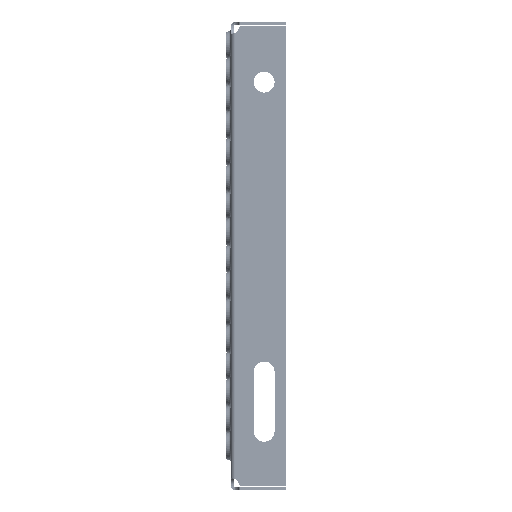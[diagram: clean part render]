
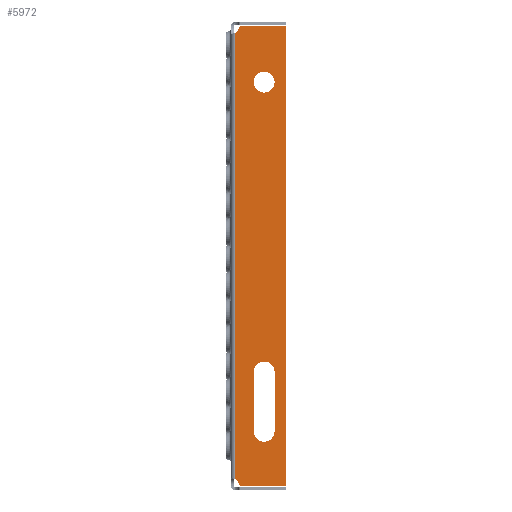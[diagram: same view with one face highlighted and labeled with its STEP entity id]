
A CAD part, left-side view. The second image highlights one B-rep face of the part: STEP entity #5972.
In plain terms, the highlighted planar face has unit normal (-1, 0, 0).
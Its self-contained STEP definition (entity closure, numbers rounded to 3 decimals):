
#830 = ORIENTED_EDGE ( 'NONE', *, *, #44224, .T. ) ;
#1272 = EDGE_CURVE ( 'NONE', #21928, #27172, #2495, .T. ) ;
#1681 = AXIS2_PLACEMENT_3D ( 'NONE', #13061, #43833, #17453 ) ;
#2195 = CARTESIAN_POINT ( 'NONE',  ( -300., -37.5, -138. ) ) ;
#2495 = CIRCLE ( 'NONE', #32581, 1. ) ;
#3585 = LINE ( 'NONE', #20446, #13884 ) ;
#3954 = CARTESIAN_POINT ( 'NONE',  ( -300., -15.5, -61.5 ) ) ;
#4736 = VERTEX_POINT ( 'NONE', #46506 ) ;
#5029 = LINE ( 'NONE', #11092, #16711 ) ;
#5892 = LINE ( 'NONE', #2195, #25148 ) ;
#5972 = ADVANCED_FACE ( 'NONE', ( #24378, #47822, #11344 ), #29059, .F. ) ;
#6015 = CARTESIAN_POINT ( 'NONE',  ( -300., -5.43, -137.167 ) ) ;
#6187 = CIRCLE ( 'NONE', #6693, 5. ) ;
#6483 = CARTESIAN_POINT ( 'NONE',  ( -300., -0.5, -138. ) ) ;
#6693 = AXIS2_PLACEMENT_3D ( 'NONE', #6483, #37244, #10899 ) ;
#6840 = DIRECTION ( 'NONE',  ( 0., 0., 1. ) ) ;
#7158 = CARTESIAN_POINT ( 'NONE',  ( -300., 0.5, -143.916 ) ) ;
#7684 = CIRCLE ( 'NONE', #45773, 1. ) ;
#8051 = DIRECTION ( 'NONE',  ( -1., 0., 0. ) ) ;
#9187 = LINE ( 'NONE', #26368, #53260 ) ;
#10129 = CARTESIAN_POINT ( 'NONE',  ( -300., -0.5, 171. ) ) ;
#10899 = DIRECTION ( 'NONE',  ( 0., 0., -1. ) ) ;
#11092 = CARTESIAN_POINT ( 'NONE',  ( -300., -37.5, 171. ) ) ;
#11344 = FACE_BOUND ( 'NONE', #47818, .T. ) ;
#11418 = VECTOR ( 'NONE', #55959, 1000. ) ;
#11767 = AXIS2_PLACEMENT_3D ( 'NONE', #15125, #45924, #19518 ) ;
#13061 = CARTESIAN_POINT ( 'NONE',  ( -300., -22.5, 133.5 ) ) ;
#13620 = ORIENTED_EDGE ( 'NONE', *, *, #40194, .F. ) ;
#13884 = VECTOR ( 'NONE', #51312, 1000. ) ;
#14542 = DIRECTION ( 'NONE',  ( 0., 0., -1. ) ) ;
#14632 = DIRECTION ( 'NONE',  ( -1., 0., 0. ) ) ;
#15125 = CARTESIAN_POINT ( 'NONE',  ( -300., -22.5, -101.5 ) ) ;
#16452 = LINE ( 'NONE', #25394, #50219 ) ;
#16711 = VECTOR ( 'NONE', #50734, 1000. ) ;
#16749 = VERTEX_POINT ( 'NONE', #18525 ) ;
#17453 = DIRECTION ( 'NONE',  ( 0., 0., -1. ) ) ;
#18209 = ORIENTED_EDGE ( 'NONE', *, *, #28135, .T. ) ;
#18326 = VERTEX_POINT ( 'NONE', #20701 ) ;
#18523 = CARTESIAN_POINT ( 'NONE',  ( -300., -6.416, -137. ) ) ;
#18525 = CARTESIAN_POINT ( 'NONE',  ( -300., -5.43, 170.167 ) ) ;
#18974 = CARTESIAN_POINT ( 'NONE',  ( -300., -37.5, -138. ) ) ;
#19216 = EDGE_CURVE ( 'NONE', #33750, #39835, #5029, .T. ) ;
#19518 = DIRECTION ( 'NONE',  ( 0., 0., -1. ) ) ;
#20381 = DIRECTION ( 'NONE',  ( 1., 0., 0. ) ) ;
#20446 = CARTESIAN_POINT ( 'NONE',  ( -300., -6.416, -138. ) ) ;
#20701 = CARTESIAN_POINT ( 'NONE',  ( -300., -29.5, -101.5 ) ) ;
#21235 = CARTESIAN_POINT ( 'NONE',  ( -300., -37.5, 171. ) ) ;
#21928 = VERTEX_POINT ( 'NONE', #6015 ) ;
#22100 = DIRECTION ( 'NONE',  ( 0., 0., -1. ) ) ;
#22803 = CARTESIAN_POINT ( 'NONE',  ( -300., -6.416, -138. ) ) ;
#22921 = DIRECTION ( 'NONE',  ( 0., 0., -1. ) ) ;
#23213 = CARTESIAN_POINT ( 'NONE',  ( -300., -22.5, 126.5 ) ) ;
#24378 = FACE_OUTER_BOUND ( 'NONE', #39812, .T. ) ;
#24589 = CARTESIAN_POINT ( 'NONE',  ( -300., -6.416, 171. ) ) ;
#25125 = CIRCLE ( 'NONE', #11767, 7. ) ;
#25148 = VECTOR ( 'NONE', #6840, 1000. ) ;
#25394 = CARTESIAN_POINT ( 'NONE',  ( -300., -29.5, -61.5 ) ) ;
#25458 = EDGE_CURVE ( 'NONE', #57153, #18326, #25125, .T. ) ;
#26221 = ORIENTED_EDGE ( 'NONE', *, *, #32628, .F. ) ;
#26368 = CARTESIAN_POINT ( 'NONE',  ( -300., -15.5, -61.5 ) ) ;
#26476 = EDGE_CURVE ( 'NONE', #36626, #57153, #9187, .T. ) ;
#27172 = VERTEX_POINT ( 'NONE', #22803 ) ;
#28135 = EDGE_CURVE ( 'NONE', #27172, #50357, #3585, .T. ) ;
#28603 = ORIENTED_EDGE ( 'NONE', *, *, #44309, .T. ) ;
#29059 = PLANE ( 'NONE',  #48675 ) ;
#29558 = CARTESIAN_POINT ( 'NONE',  ( -300., -3., -143.916 ) ) ;
#31239 = ORIENTED_EDGE ( 'NONE', *, *, #1272, .T. ) ;
#31266 = EDGE_CURVE ( 'NONE', #31840, #31840, #34206, .T. ) ;
#31840 = VERTEX_POINT ( 'NONE', #23213 ) ;
#32109 = EDGE_CURVE ( 'NONE', #50357, #33750, #5892, .T. ) ;
#32581 = AXIS2_PLACEMENT_3D ( 'NONE', #18523, #49353, #22921 ) ;
#32628 = EDGE_CURVE ( 'NONE', #42122, #36626, #53336, .T. ) ;
#33069 = ORIENTED_EDGE ( 'NONE', *, *, #25458, .F. ) ;
#33259 = ORIENTED_EDGE ( 'NONE', *, *, #26476, .F. ) ;
#33410 = ORIENTED_EDGE ( 'NONE', *, *, #48721, .F. ) ;
#33716 = CIRCLE ( 'NONE', #34319, 5. ) ;
#33750 = VERTEX_POINT ( 'NONE', #21235 ) ;
#34206 = CIRCLE ( 'NONE', #1681, 7. ) ;
#34319 = AXIS2_PLACEMENT_3D ( 'NONE', #10129, #40904, #14542 ) ;
#34387 = CARTESIAN_POINT ( 'NONE',  ( -300., -6.416, 170. ) ) ;
#35386 = ORIENTED_EDGE ( 'NONE', *, *, #37992, .T. ) ;
#36626 = VERTEX_POINT ( 'NONE', #3954 ) ;
#37244 = DIRECTION ( 'NONE',  ( 1., 0., 0. ) ) ;
#37992 = EDGE_CURVE ( 'NONE', #39835, #16749, #7684, .T. ) ;
#38817 = DIRECTION ( 'NONE',  ( 0., 0., 1. ) ) ;
#39259 = EDGE_LOOP ( 'NONE', ( #41638 ) ) ;
#39812 = EDGE_LOOP ( 'NONE', ( #33410, #28603, #31239, #18209, #49663, #55227, #35386, #830 ) ) ;
#39835 = VERTEX_POINT ( 'NONE', #24589 ) ;
#40194 = EDGE_CURVE ( 'NONE', #18326, #42122, #16452, .T. ) ;
#40904 = DIRECTION ( 'NONE',  ( 1., 0., 0. ) ) ;
#41003 = CARTESIAN_POINT ( 'NONE',  ( -300., -22.5, -61.5 ) ) ;
#41638 = ORIENTED_EDGE ( 'NONE', *, *, #31266, .F. ) ;
#42005 = VERTEX_POINT ( 'NONE', #51243 ) ;
#42122 = VERTEX_POINT ( 'NONE', #47731 ) ;
#43833 = DIRECTION ( 'NONE',  ( -1., 0., 0. ) ) ;
#44224 = EDGE_CURVE ( 'NONE', #16749, #4736, #33716, .T. ) ;
#44309 = EDGE_CURVE ( 'NONE', #42005, #21928, #6187, .T. ) ;
#45426 = DIRECTION ( 'NONE',  ( 0., 0., -1. ) ) ;
#45773 = AXIS2_PLACEMENT_3D ( 'NONE', #34387, #8051, #38817 ) ;
#45924 = DIRECTION ( 'NONE',  ( -1., 0., 0. ) ) ;
#46506 = CARTESIAN_POINT ( 'NONE',  ( -300., -3., 166.67 ) ) ;
#47731 = CARTESIAN_POINT ( 'NONE',  ( -300., -29.5, -61.5 ) ) ;
#47818 = EDGE_LOOP ( 'NONE', ( #33259, #26221, #13620, #33069 ) ) ;
#47822 = FACE_BOUND ( 'NONE', #39259, .T. ) ;
#48448 = CARTESIAN_POINT ( 'NONE',  ( -300., -15.5, -101.5 ) ) ;
#48675 = AXIS2_PLACEMENT_3D ( 'NONE', #7158, #20381, #51239 ) ;
#48721 = EDGE_CURVE ( 'NONE', #42005, #4736, #56864, .T. ) ;
#49353 = DIRECTION ( 'NONE',  ( -1., 0., 0. ) ) ;
#49663 = ORIENTED_EDGE ( 'NONE', *, *, #32109, .T. ) ;
#50219 = VECTOR ( 'NONE', #51803, 1000. ) ;
#50357 = VERTEX_POINT ( 'NONE', #18974 ) ;
#50734 = DIRECTION ( 'NONE',  ( 0., 1., 0. ) ) ;
#51239 = DIRECTION ( 'NONE',  ( 0., 0., -1. ) ) ;
#51243 = CARTESIAN_POINT ( 'NONE',  ( -300., -3., -133.67 ) ) ;
#51312 = DIRECTION ( 'NONE',  ( 0., -1., 0. ) ) ;
#51803 = DIRECTION ( 'NONE',  ( 0., 0., 1. ) ) ;
#53260 = VECTOR ( 'NONE', #22100, 1000. ) ;
#53336 = CIRCLE ( 'NONE', #57099, 7. ) ;
#55227 = ORIENTED_EDGE ( 'NONE', *, *, #19216, .T. ) ;
#55959 = DIRECTION ( 'NONE',  ( 0., 0., 1. ) ) ;
#56864 = LINE ( 'NONE', #29558, #11418 ) ;
#57099 = AXIS2_PLACEMENT_3D ( 'NONE', #41003, #14632, #45426 ) ;
#57153 = VERTEX_POINT ( 'NONE', #48448 ) ;
